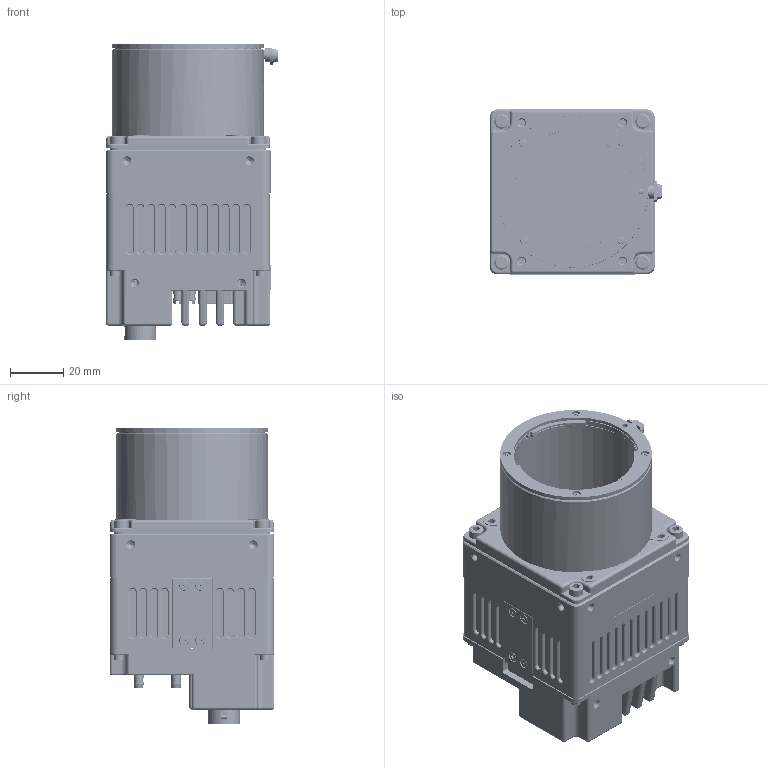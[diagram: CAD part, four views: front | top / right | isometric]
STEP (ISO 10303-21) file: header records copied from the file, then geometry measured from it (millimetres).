
FILE_DESCRIPTION((''),'2;1');
FILE_NAME('SW-4000TL-PMCL_MOCK_2017_11_30','2017-12-01T',('aso'),(''),'CREO PARAMETRIC BY PTC INC, 2016260','CREO PARAMETRIC BY PTC INC, 2016260','');
FILE_SCHEMA(('CONFIG_CONTROL_DESIGN'));
Products named in the file (1): SW-4000TL-PMCL_MOCK_2017_11_30
Bounding box: 64.9 x 62 x 111.1 mm (x, y, z)
Surface area: 79417.7 mm2
Topology: 51 solids, 54 shells, 7295 faces, 20817 edges, 13513 vertices
Faces by surface type: plane 4901, cylinder 1651, cone 455, torus 139, sphere 87, bspline 62
Entity records: 243252 total; most frequent: CARTESIAN_POINT 53115, ORIENTED_EDGE 40064, DIRECTION 38187, EDGE_CURVE 20667, VECTOR 15047, LINE 15047, VERTEX_POINT 13513, AXIS2_PLACEMENT_3D 11570
